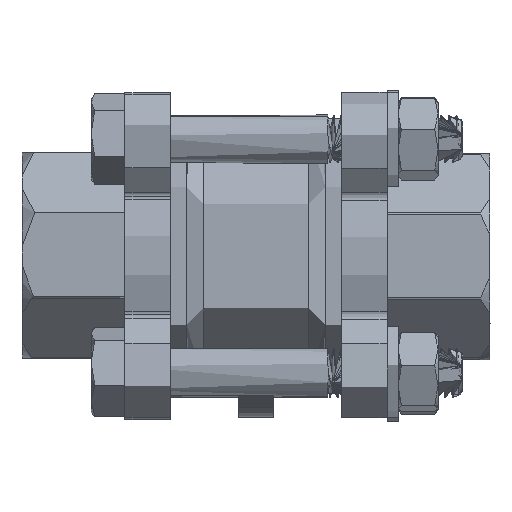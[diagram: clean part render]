
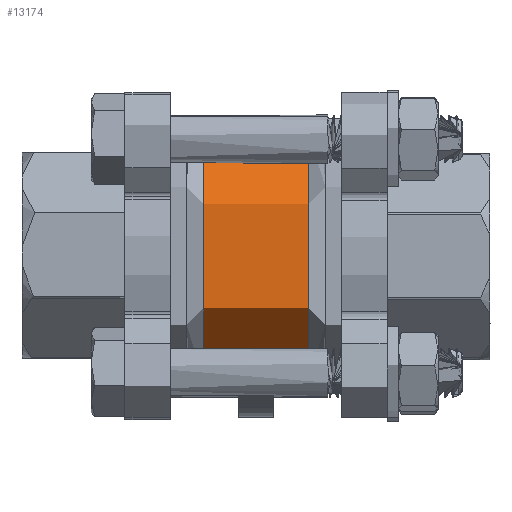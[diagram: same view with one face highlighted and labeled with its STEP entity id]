
A CAD part, front view. The second image highlights one B-rep face of the part: STEP entity #13174.
In plain terms, the highlighted cylindrical face has radius 21.59 mm (diameter 43.18 mm), a partial arc.
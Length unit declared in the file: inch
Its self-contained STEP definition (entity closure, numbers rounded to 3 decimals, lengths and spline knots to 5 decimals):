
#898 = CARTESIAN_POINT ( 'NONE',  ( 0.335, -0.3, 0.7953 ) ) ;
#914 = CARTESIAN_POINT ( 'NONE',  ( -3.29542, -0.3, -0.7953 ) ) ;
#963 = DIRECTION ( 'NONE',  ( 0., 0., 1. ) ) ;
#1303 = DIRECTION ( 'NONE',  ( 0., 0., 1. ) ) ;
#2432 = LINE ( 'NONE', #6779, #21032 ) ;
#2645 = DIRECTION ( 'NONE',  ( -1., 0., 0. ) ) ;
#2689 = CIRCLE ( 'NONE', #15244, 0.85 ) ;
#4558 = EDGE_CURVE ( 'NONE', #11326, #17237, #2432, .T. ) ;
#5656 = LINE ( 'NONE', #914, #15258 ) ;
#5766 = CYLINDRICAL_SURFACE ( 'NONE', #17529, 0.85 ) ;
#6510 = CARTESIAN_POINT ( 'NONE',  ( -0.335, -0.3, -0.7953 ) ) ;
#6583 = EDGE_LOOP ( 'NONE', ( #6630, #17768, #8920, #10204 ) ) ;
#6630 = ORIENTED_EDGE ( 'NONE', *, *, #4558, .F. ) ;
#6779 = CARTESIAN_POINT ( 'NONE',  ( -3.29542, -0.3, 0.7953 ) ) ;
#6808 = DIRECTION ( 'NONE',  ( 1., 0., 0. ) ) ;
#7109 = CARTESIAN_POINT ( 'NONE',  ( -0.335, -0.3, 0.7953 ) ) ;
#8460 = CARTESIAN_POINT ( 'NONE',  ( -3.29542, 0., 0. ) ) ;
#8920 = ORIENTED_EDGE ( 'NONE', *, *, #20726, .T. ) ;
#10204 = ORIENTED_EDGE ( 'NONE', *, *, #16990, .T. ) ;
#11326 = VERTEX_POINT ( 'NONE', #7109 ) ;
#11740 = DIRECTION ( 'NONE',  ( -1., 0., 0. ) ) ;
#11993 = EDGE_CURVE ( 'NONE', #14737, #11326, #2689, .T. ) ;
#13174 = ADVANCED_FACE ( 'NONE', ( #15366 ), #5766, .T. ) ;
#13450 = CARTESIAN_POINT ( 'NONE',  ( 0.335, 0., 0. ) ) ;
#13616 = VERTEX_POINT ( 'NONE', #16366 ) ;
#14737 = VERTEX_POINT ( 'NONE', #6510 ) ;
#15244 = AXIS2_PLACEMENT_3D ( 'NONE', #22497, #11740, #963 ) ;
#15258 = VECTOR ( 'NONE', #20750, 39.37008 ) ;
#15263 = DIRECTION ( 'NONE',  ( 0., 0., 1. ) ) ;
#15366 = FACE_OUTER_BOUND ( 'NONE', #6583, .T. ) ;
#16366 = CARTESIAN_POINT ( 'NONE',  ( 0.335, -0.3, -0.7953 ) ) ;
#16990 = EDGE_CURVE ( 'NONE', #13616, #17237, #18679, .T. ) ;
#17237 = VERTEX_POINT ( 'NONE', #898 ) ;
#17529 = AXIS2_PLACEMENT_3D ( 'NONE', #8460, #22911, #1303 ) ;
#17768 = ORIENTED_EDGE ( 'NONE', *, *, #11993, .F. ) ;
#18679 = CIRCLE ( 'NONE', #18763, 0.85 ) ;
#18763 = AXIS2_PLACEMENT_3D ( 'NONE', #13450, #2645, #15263 ) ;
#20726 = EDGE_CURVE ( 'NONE', #14737, #13616, #5656, .T. ) ;
#20750 = DIRECTION ( 'NONE',  ( 1., 0., 0. ) ) ;
#21032 = VECTOR ( 'NONE', #6808, 39.37008 ) ;
#22497 = CARTESIAN_POINT ( 'NONE',  ( -0.335, 0., 0. ) ) ;
#22911 = DIRECTION ( 'NONE',  ( -1., 0., 0. ) ) ;
